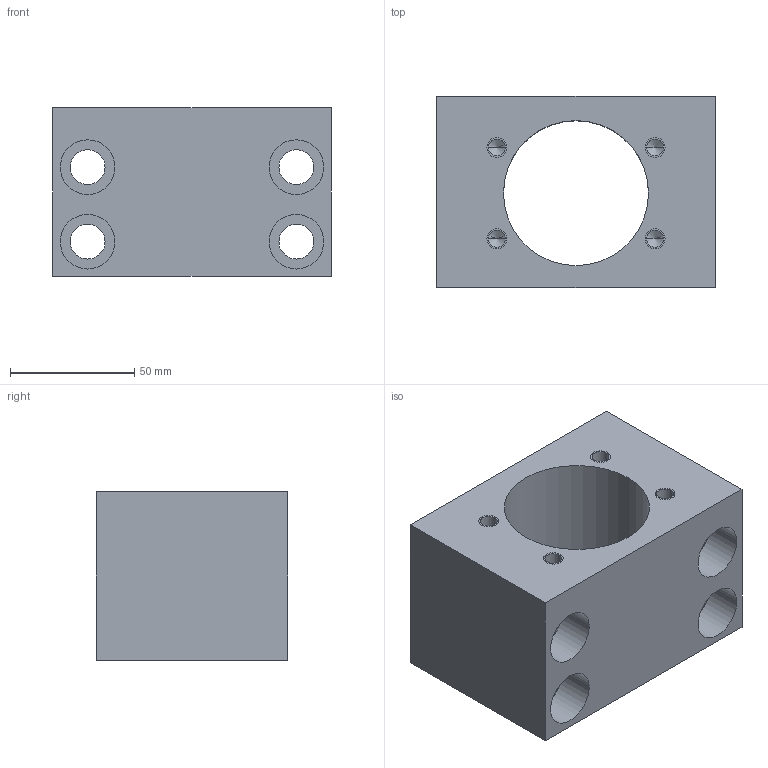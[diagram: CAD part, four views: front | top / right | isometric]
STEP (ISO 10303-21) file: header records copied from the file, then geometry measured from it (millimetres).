
FILE_DESCRIPTION((''),'2;1');
FILE_NAME('NH32D','2020-04-10T',('Administrator'),(''),'PRO/ENGINEER BY PARAMETRIC TECHNOLOGY CORPORATION, 2010280','PRO/ENGINEER BY PARAMETRIC TECHNOLOGY CORPORATION, 2010280','');
FILE_SCHEMA(('CONFIG_CONTROL_DESIGN'));
Length unit declared in the file: millimetre
Products named in the file (1): NH32D
Bounding box: 112 x 77 x 68 mm (x, y, z)
Volume: 340237 mm3; surface area: 67357.5 mm2
Topology: 1 solids, 5 shells, 56 faces, 138 edges, 88 vertices
Faces by surface type: cylinder 34, plane 14, cone 8
Entity records: 1697 total; most frequent: DIRECTION 320, CARTESIAN_POINT 275, ORIENTED_EDGE 244, AXIS2_PLACEMENT_3D 133, EDGE_CURVE 130, VERTEX_POINT 88, EDGE_LOOP 78, CIRCLE 76
